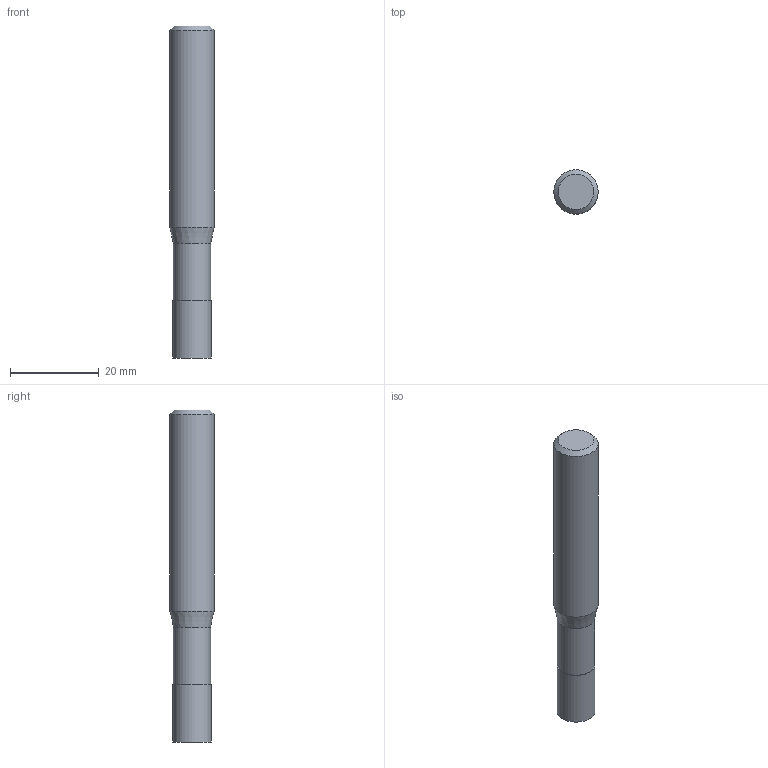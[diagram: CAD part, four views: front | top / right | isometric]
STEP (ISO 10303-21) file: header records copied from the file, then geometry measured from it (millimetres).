
FILE_DESCRIPTION((''),'2;1');
FILE_NAME('C:\Users\nsx150\AppData\Local\Temp\Mastercam 2021\EUJSUNXURU\TEMP.step','2021-04-22T10:29:33',(''),(''),'STEP Write','Mastercam 2021 ... CNC Software, Inc.','');
FILE_SCHEMA(('AUTOMOTIVE_DESIGN'));
Length unit declared in the file: millimetre
Products named in the file (1): None
Bounding box: 10 x 10 x 75 mm (x, y, z)
Volume: 5268.9 mm3; surface area: 2458 mm2
Topology: 2 solids, 2 shells, 9 faces, 12 edges, 7 vertices
Faces by surface type: plane 4, cylinder 3, cone 2
Full cylindrical faces by diameter (mm): 8.4 x1, 8.6 x1, 10 x1
Entity records: 211 total; most frequent: DIRECTION 36, CARTESIAN_POINT 25, AXIS2_PLACEMENT_3D 18, ORIENTED_EDGE 14, EDGE_LOOP 14, STYLED_ITEM 12, ADVANCED_FACE 9, FACE_BOUND 8
